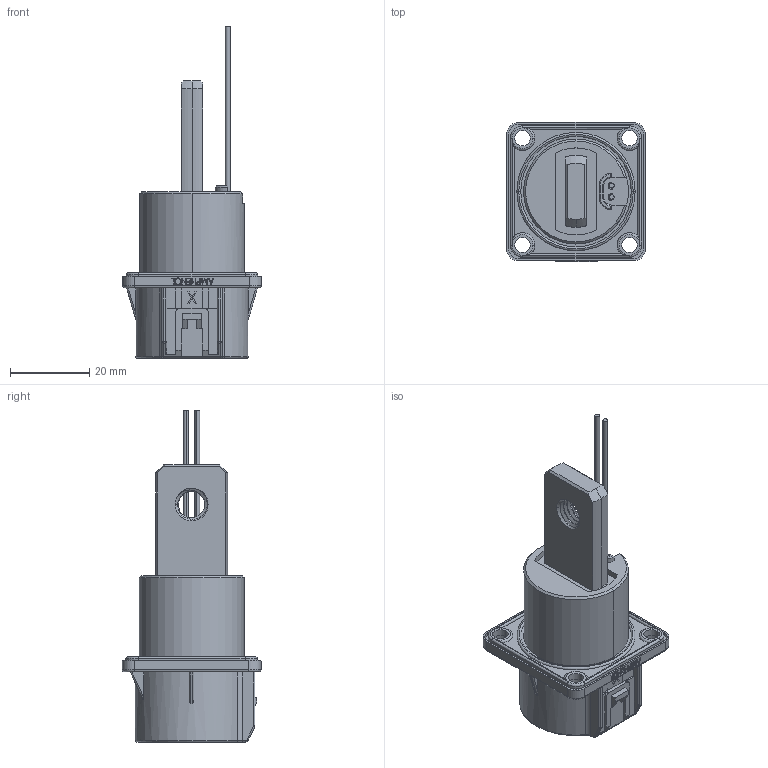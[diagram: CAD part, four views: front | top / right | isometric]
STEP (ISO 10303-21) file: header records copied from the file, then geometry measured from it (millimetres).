
FILE_DESCRIPTION (( 'STEP AP214' ), '1' );
FILE_NAME ('PL00X-301-90M8.STEP', '2024-06-24T01:45:52', ( '' ), ( '' ), 'SwSTEP 2.0', 'SolidWorks 2018', '' );
FILE_SCHEMA (( 'AUTOMOTIVE_DESIGN' ));
Length unit declared in the file: millimetre
Products named in the file (1): PL00X-301-90M8
Bounding box: 35 x 35.2 x 83.88 mm (x, y, z)
Volume: 25313.7 mm3; surface area: 11815.5 mm2
Topology: 2 solids, 4 shells, 446 faces, 1142 edges, 728 vertices
Faces by surface type: plane 228, cylinder 130, torus 45, cone 26, bspline 17
Entity records: 18346 total; most frequent: CARTESIAN_POINT 5571, ORIENTED_EDGE 2284, DIRECTION 2201, EDGE_CURVE 1142, AXIS2_PLACEMENT_3D 760, VERTEX_POINT 728, VECTOR 681, LINE 681
